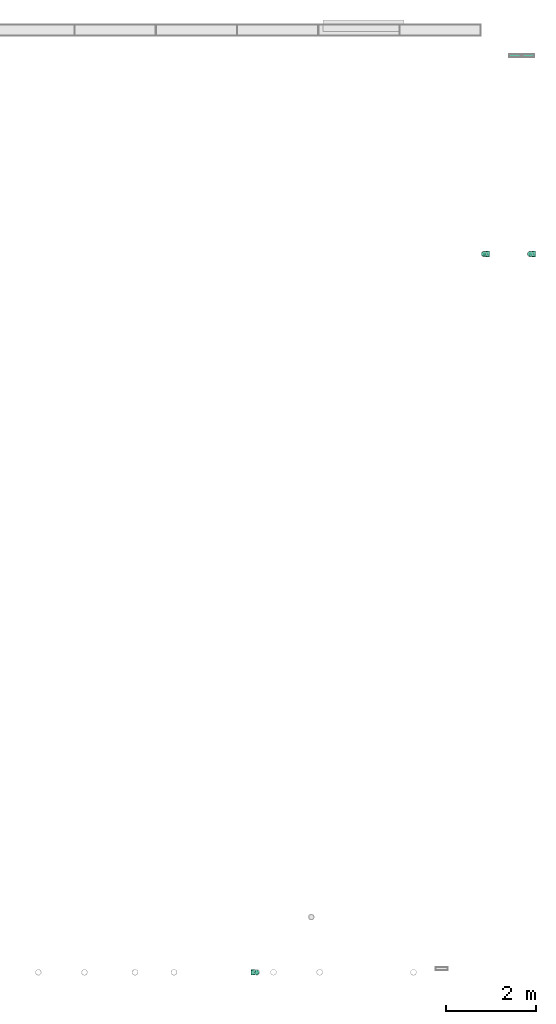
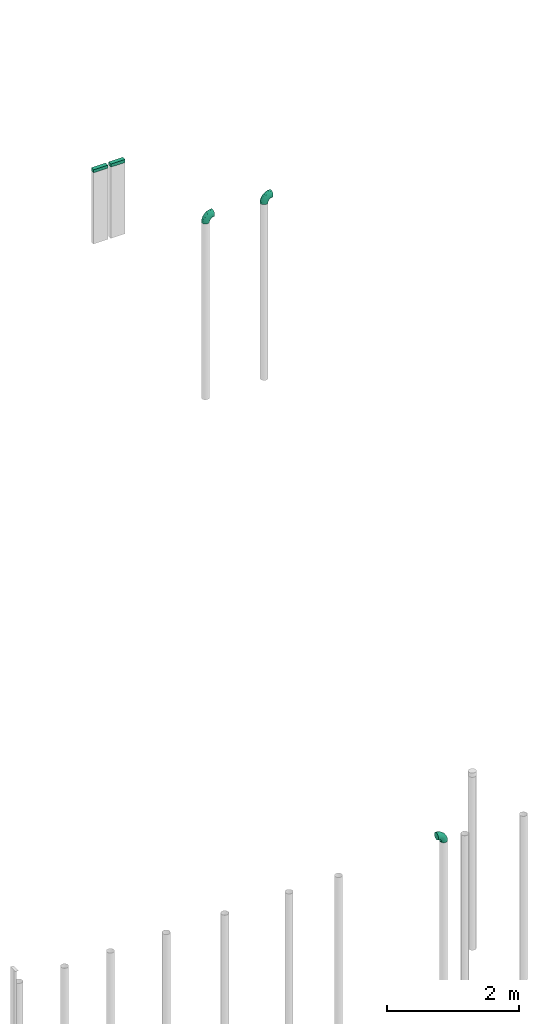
# One storey, part 4 of 7: 5 flow fittings.
"""IFC2X3 building model written with IfcOpenShell, lengths in millimetres."""

from ifc_helpers import new_model, entity, si_unit, converted_unit, derived_unit, direction, frame, origin_with_axes, place, context, subcontext, project, spatial, open_shell, surface_model, source, transform, mapped, type_object, element, save


model = new_model("IFC2X3")

# Units and contexts
model_context = context("Model", 3, precision=0.01, world=frame((0.0, 4.29681676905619e-09, 0.0)), true_north=direction((4.01073788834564e-13, 1.0)))
plan_context = context("Plan", 3, precision=0.01, world=frame((0.0, 4.29681676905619e-09, 0.0)), true_north=direction((4.01073788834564e-13, 1.0)))
body_context = subcontext(model_context, "Body", "Model", "MODEL_VIEW")
ifc_project = project(units=[converted_unit("PLANEANGLEUNIT", "DEGREE", entity("IfcPositiveLengthMeasure", 0.0174532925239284), si_unit("PLANEANGLEUNIT", "RADIAN"), dimensions=[0, 0, 0, 0, 0, 0, 0]), si_unit("AREAUNIT", "SQUARE_METRE"), si_unit("LENGTHUNIT", "METRE", prefix="MILLI"), si_unit("MASSUNIT", "GRAM", prefix="KILO"), si_unit("POWERUNIT", "WATT"), si_unit("PRESSUREUNIT", "PASCAL"), si_unit("FORCEUNIT", "NEWTON", prefix="KILO"), si_unit("ELECTRICVOLTAGEUNIT", "VOLT"), si_unit("ELECTRICCURRENTUNIT", "AMPERE"), si_unit("THERMODYNAMICTEMPERATUREUNIT", "DEGREE_CELSIUS"), si_unit("TIMEUNIT", "SECOND"), si_unit("VOLUMEUNIT", "CUBIC_METRE"), derived_unit("LINEARVELOCITYUNIT", [(si_unit("LENGTHUNIT", "METRE"), 1), (si_unit("TIMEUNIT", "SECOND"), -1)]), derived_unit("VOLUMETRICFLOWRATEUNIT", [(si_unit("VOLUMEUNIT", "CUBIC_METRE"), 1), (si_unit("TIMEUNIT", "SECOND"), -1)]), derived_unit("THERMALTRANSMITTANCEUNIT", [(si_unit("POWERUNIT", "WATT"), 1), (si_unit("THERMODYNAMICTEMPERATUREUNIT", "KELVIN"), -1), (si_unit("AREAUNIT", "SQUARE_METRE"), -1)]), derived_unit("SOUNDPRESSUREUNIT", [(si_unit("PRESSUREUNIT", "PASCAL"), 1)])], contexts=[model_context, plan_context])

# Site, building, storey
site_placement = place(None, frame((0.0, -4.29681676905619e-09, 0.0), z_axis=(0.0, 0.0, 1.0), x_axis=(1.0, 0.0, 0.0)))
site = spatial("IfcSite", under=ifc_project, at=site_placement, CompositionType="ELEMENT")
building_placement = place(site_placement, frame((0.0, 4.29681676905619e-09, 0.0), z_axis=(0.0, 0.0, 1.0), x_axis=(1.0, 0.0, 0.0)))
building = spatial("IfcBuilding", under=site, at=building_placement, Name="mc-building", CompositionType="ELEMENT")
storey_placement = place(building_placement, frame((0.0, 0.0, 207370.0), z_axis=(0.0, 0.0, 1.0), x_axis=(1.0, 0.0, 0.0)))
storey = spatial("IfcBuildingStorey", under=building, at=storey_placement, Name="Nivå E", CompositionType="ELEMENT", Elevation=207370.0)

# Flow fittings
duct_fitting_type_1 = type_object("IfcDuctFittingType", Name="magicirc_elbow_full_radius_001", PredefinedType="BEND")
shared_shape_1 = source(origin_with_axes(), body_context, "Body", "SurfaceModel", [
    surface_model("IfcShellBasedSurfaceModel", [(-125.0, 16.17619, -60.37037), (-125.0, 0.0, -62.5), (-125.0, 44.19417, -44.19417), (-125.0, 31.25, -54.12659), (-125.0, 60.37037, -16.17619), (-125.0, 54.12659, -31.25), (-125.0, -16.17619, -60.37037), (-125.0, -31.25, -54.12659), (-125.0, -44.19417, -44.19417), (-125.0, -54.12659, -31.25), (-125.0, -60.37037, -16.17619), (-125.0, -62.5, 0.0), (-125.0, 62.5, 0.0), (-125.0, -31.25, 54.12659), (-125.0, 60.37037, 16.17619), (-125.0, 54.12659, 31.25), (-125.0, 16.17619, 60.37037), (-125.0, 31.25, 54.12659), (-125.0, 44.19417, 44.19417), (-125.0, -54.12659, 31.25), (-125.0, -44.19417, 44.19417), (-125.0, -60.37037, 16.17619), (-125.0, -16.17619, 60.37037), (-125.0, 0.0, 62.5), (-44.19417, 125.0, -44.19417), (0.0, 125.0, -62.5), (-16.17619, 125.0, -60.37037), (-31.25, 125.0, -54.12659), (-54.12659, 125.0, -31.25), (-60.37037, 125.0, -16.17619), (16.17619, 125.0, -60.37037), (44.19417, 125.0, -44.19417), (31.25, 125.0, -54.12659), (60.37037, 125.0, -16.17619), (54.12659, 125.0, -31.25), (62.5, 125.0, 0.0), (44.19417, 125.0, 44.19417), (31.25, 125.0, 54.12659), (-62.5, 125.0, 0.0), (-60.37037, 125.0, 16.17619), (-54.12659, 125.0, 31.25), (-16.17619, 125.0, 60.37037), (-44.19417, 125.0, 44.19417), (-31.25, 125.0, 54.12659), (60.37037, 125.0, 16.17619), (54.12659, 125.0, 31.25), (0.0, 125.0, 62.5), (16.17619, 125.0, 60.37037), (-92.0149, -48.59662, 35.11543), (-82.31101, -36.10079, 46.59002), (-83.27732, -57.79898, 0.0), (21.5934, 8.09566, 0.0), (6.68953, -6.68953, 12.50062), (-8.09566, -21.5934, 0.0), (-85.18285, -54.95352, 19.72452), (-63.86862, 108.10791, 10.69753), (-72.65264, 88.16475, 13.64847), (-58.85933, 108.47697, 26.01876), (28.68805, 50.93011, 42.73586), (15.24994, 48.30376, 51.88115), (13.33611, 22.15566, 40.76355), (-28.58034, -33.18174, 16.61251), (-55.80927, -40.00167, 31.60254), (-55.92901, -46.21073, 18.75923), (-43.6468, -43.93166, 0.0), (-11.16429, 11.16428, 51.09905), (-91.91541, -23.64007, 56.2333), (-48.30376, -15.24994, 51.88115), (-62.2246, -0.56088, 60.57833), (-86.05221, 71.09173, 22.01563), (-76.29757, 73.71528, 30.99181), (-95.48, -8.27954, 61.43109), (-21.72166, 61.46244, 62.38786), (-46.29465, 46.29465, 60.98138), (-37.21568, 27.31198, 62.17805), (-96.3442, 24.51222, 59.0402), (-23.33012, 107.80836, 58.54242), (-8.56588, 93.49118, 62.34649), (-87.52028, 9.58041, 62.39347), (-90.8433, 62.14568, 32.36992), (-104.65631, 61.64741, 22.10298), (-108.67612, 63.76169, 10.43133), (-88.81041, 72.98575, 10.36437), (36.10079, 82.31101, 46.59002), (-22.15566, -13.33612, 40.76355), (-97.70214, 52.10141, 41.01675), (33.18174, 28.58034, 16.61251), (43.93166, 43.6468, 0.0), (-108.13323, 37.84893, 50.9265), (-16.31425, 41.86087, 61.36861), (-31.05498, 11.46575, 58.36241), (-6.38494, 33.76703, 57.43674), (23.64007, 91.91541, 56.2333), (8.27954, 95.48, 61.43109), (40.00167, 55.80927, 31.60254), (47.31258, 55.33607, 14.21495), (57.79898, 83.27732, 0.0), (54.95352, 85.18285, 19.72452), (48.59662, 92.0149, 35.11543), (-51.08394, 80.06201, 49.23756), (-51.34965, 100.68876, 40.68918), (-65.88145, 69.79931, 44.27158), (-67.25753, 101.08228, 0.0), (-66.7509, 56.0836, 51.93913), (-47.27423, 67.56375, 55.69769), (-80.80582, 80.80582, 0.0), (-101.08228, 67.25753, 0.0), (-27.0301, 84.68903, 59.52251), (-39.49549, 96.79785, 51.80473), (-4.68934, 4.68934, 43.22247), (2.91368, -2.91368, 27.95973), (-68.67967, 26.77168, 61.38152), (-61.32894, 15.31518, 62.47333), (-66.44476, 42.40788, 57.80884), (-86.06534, 42.42608, 52.63144), (-36.4073, 64.87811, 59.87196), (0.56088, 62.2246, 60.57833), (-50.92891, -28.66756, 42.755), (-64.50927, 88.5041, 30.85553), (-27.43118, -26.16339, 29.83954), (22.73426, 21.43212, 28.89237), (-90.73911, 40.97988, -52.27133), (-51.05944, -15.77315, -52.43613), (-54.27147, -0.77962, -59.44482), (-25.11169, -1.04586, -51.21226), (-98.94229, 7.90272, -62.29658), (-67.16143, 94.52638, -18.73917), (-96.1712, 24.53976, -59.04752), (-57.8841, 72.64103, -48.12601), (-44.50916, 76.42373, -54.27754), (-57.76281, 57.76281, -54.8772), (-107.28047, 64.03146, -11.08737), (-59.60363, -46.85882, -20.9596), (-91.17795, -55.95169, -20.37554), (-87.70528, 72.36167, -15.72738), (37.33987, 90.42119, -47.18844), (21.5694, 79.15007, -55.58604), (24.6394, 105.55614, -56.88213), (-98.81833, 51.80612, -40.89409), (-75.37655, 57.2746, -47.13743), (-29.56225, -32.61603, -19.86672), (2.63114, 29.35884, -52.12213), (-22.06401, 22.064, -59.01679), (-105.22465, -49.75349, -36.31269), (-39.22852, 98.11971, -51.7028), (-25.51302, 90.93127, -59.26694), (7.06321, 14.54725, -41.00964), (25.49531, 46.66577, -43.72165), (20.99941, 20.9078, -30.93535), (-90.42119, -37.33987, -47.18844), (-47.40462, -35.90659, -32.07933), (-105.55614, -24.6394, -56.88213), (0.77962, 54.27147, -59.44482), (12.91756, 53.35696, -54.59988), (7.88048, 92.08251, -61.35725), (-79.15007, -21.5694, -55.58604), (-92.08251, -7.88048, -61.35725), (-78.52964, -46.34869, -33.8522), (-68.20954, -28.53784, -49.07387), (46.34869, 78.52964, -33.8522), (46.85882, 59.60363, -20.9596), (35.90659, 47.40462, -32.07933), (-75.95077, 74.3101, -30.65772), (-100.92719, 60.72326, -27.00798), (2.91558, -2.91558, -27.95435), (6.69001, -6.69001, -12.49729), (32.61603, 29.56225, -19.86672), (-54.06785, 91.48679, -41.70621), (-58.74822, 101.55878, -30.19257), (-7.90272, 98.94229, -62.29658), (49.75349, 105.22465, -36.31269), (-14.77484, 68.85348, -62.48651), (-33.7955, 36.46996, -62.46452), (-36.98162, 59.24998, -60.63975), (55.95169, 91.17795, -20.37554), (-61.70769, 36.16979, -60.43635), (-23.35082, -23.18253, -30.24249), (-68.85348, 14.77484, -62.48651), (-16.60827, -10.64436, -39.25753), (-46.66577, -25.49531, -43.72165), (-69.70063, 70.78468, -40.55271)], [open_shell([[[0, 1, 2]], [[3, 0, 2]], [[4, 5, 2]], [[6, 2, 1]], [[4, 2, 6]], [[7, 8, 6]], [[8, 4, 6]], [[9, 10, 8]], [[11, 8, 10]], [[8, 11, 4]], [[11, 12, 4]], [[12, 13, 14]], [[15, 14, 16]], [[16, 17, 18]], [[15, 16, 18]], [[16, 14, 13]], [[19, 20, 21]], [[21, 20, 11]], [[22, 23, 13]], [[20, 13, 11]], [[13, 23, 16]], [[13, 12, 11]], [[24, 25, 26]], [[24, 26, 27]], [[24, 28, 29]], [[25, 24, 30]], [[30, 24, 29]], [[30, 31, 32]], [[30, 29, 31]], [[31, 33, 34]], [[33, 31, 35]], [[31, 36, 35]], [[31, 29, 37]], [[38, 39, 40]], [[38, 40, 41]], [[42, 43, 41]], [[42, 41, 40]], [[38, 41, 37]], [[44, 36, 45]], [[35, 36, 44]], [[37, 46, 47]], [[31, 37, 36]], [[41, 46, 37]], [[29, 38, 37]], [[20, 48, 49]], [[21, 11, 50]], [[51, 52, 53]], [[54, 19, 21]], [[50, 54, 21]], [[55, 56, 57]], [[19, 48, 20]], [[58, 59, 60]], [[61, 62, 63]], [[61, 63, 64]], [[20, 49, 13]], [[61, 64, 53]], [[65, 60, 59]], [[66, 67, 68]], [[56, 69, 70]], [[71, 23, 22]], [[72, 73, 74]], [[17, 16, 75]], [[66, 13, 49]], [[41, 76, 77]], [[23, 78, 16]], [[15, 79, 80]], [[81, 12, 14]], [[69, 82, 81]], [[83, 36, 37]], [[65, 67, 84]], [[18, 85, 15]], [[86, 51, 87]], [[18, 17, 88]], [[89, 90, 91]], [[83, 37, 92]], [[69, 81, 80]], [[93, 47, 46]], [[94, 86, 95]], [[96, 97, 95]], [[96, 44, 97]], [[98, 97, 45]], [[46, 41, 77]], [[63, 50, 64]], [[44, 45, 97]], [[83, 94, 98]], [[45, 36, 98]], [[99, 100, 101]], [[55, 102, 56]], [[39, 57, 40]], [[44, 96, 35]], [[48, 54, 62]], [[79, 70, 69]], [[99, 103, 104]], [[38, 102, 55]], [[23, 71, 78]], [[56, 105, 82]], [[18, 88, 85]], [[102, 105, 56]], [[92, 37, 47]], [[57, 100, 40]], [[82, 105, 106]], [[107, 108, 104]], [[109, 110, 60]], [[107, 72, 77]], [[13, 66, 22]], [[108, 107, 76]], [[76, 41, 43]], [[43, 42, 108]], [[83, 92, 59]], [[95, 86, 87]], [[111, 112, 74]], [[75, 16, 78]], [[113, 75, 111]], [[103, 85, 114]], [[80, 79, 69]], [[100, 42, 40]], [[115, 104, 73]], [[107, 115, 72]], [[93, 77, 116]], [[67, 66, 49]], [[71, 66, 68]], [[67, 117, 84]], [[67, 65, 90]], [[93, 92, 47]], [[116, 91, 59]], [[116, 59, 92]], [[109, 60, 65]], [[54, 48, 19]], [[49, 48, 62]], [[83, 98, 36]], [[97, 98, 94]], [[111, 75, 78]], [[88, 75, 114]], [[81, 82, 106]], [[56, 82, 69]], [[12, 81, 106]], [[81, 14, 80]], [[14, 15, 80]], [[79, 15, 85]], [[85, 101, 79]], [[70, 101, 118]], [[108, 99, 104]], [[113, 103, 114]], [[111, 74, 73]], [[116, 77, 72]], [[90, 74, 68]], [[72, 74, 89]], [[77, 93, 46]], [[92, 93, 116]], [[66, 71, 22]], [[78, 71, 68]], [[101, 100, 118]], [[108, 42, 100]], [[52, 61, 53]], [[119, 110, 84]], [[94, 58, 120]], [[86, 120, 52]], [[117, 67, 49]], [[61, 119, 62]], [[120, 60, 110]], [[83, 58, 94]], [[111, 78, 112]], [[113, 111, 73]], [[104, 113, 73]], [[75, 113, 114]], [[104, 103, 113]], [[85, 103, 101]], [[78, 68, 112]], [[68, 74, 112]], [[101, 70, 79]], [[56, 70, 118]], [[67, 90, 68]], [[91, 90, 65]], [[59, 91, 65]], [[89, 91, 116]], [[72, 89, 116]], [[90, 89, 74]], [[57, 56, 118]], [[38, 55, 39]], [[86, 52, 51]], [[61, 52, 110]], [[75, 88, 17]], [[85, 88, 114]], [[108, 76, 43]], [[77, 76, 107]], [[55, 57, 39]], [[100, 57, 118]], [[72, 115, 73]], [[107, 104, 115]], [[100, 99, 108]], [[103, 99, 101]], [[62, 54, 63]], [[63, 54, 50]], [[96, 95, 87]], [[94, 95, 97]], [[49, 62, 117]], [[119, 117, 62]], [[110, 119, 61]], [[117, 119, 84]], [[65, 84, 109]], [[110, 109, 84]], [[52, 120, 110]], [[94, 120, 86]], [[59, 58, 83]], [[120, 58, 60]], [[2, 121, 3]], [[122, 123, 124]], [[1, 0, 125]], [[126, 102, 38]], [[3, 127, 0]], [[128, 129, 130]], [[106, 131, 12]], [[132, 50, 133]], [[106, 134, 131]], [[135, 136, 137]], [[138, 139, 121]], [[64, 140, 53]], [[141, 124, 142]], [[121, 2, 138]], [[133, 9, 143]], [[144, 27, 145]], [[50, 11, 10]], [[146, 147, 148]], [[149, 8, 7]], [[140, 132, 150]], [[151, 149, 7]], [[141, 152, 153]], [[30, 154, 25]], [[133, 10, 9]], [[143, 9, 8]], [[155, 156, 123]], [[157, 149, 158]], [[7, 6, 151]], [[156, 6, 1]], [[159, 160, 161]], [[105, 134, 106]], [[64, 50, 132]], [[126, 162, 134]], [[138, 163, 162]], [[29, 126, 38]], [[140, 164, 165]], [[166, 87, 51]], [[167, 168, 28]], [[162, 126, 168]], [[32, 31, 135]], [[154, 30, 137]], [[26, 169, 145]], [[127, 3, 121]], [[169, 26, 25]], [[31, 34, 170]], [[27, 144, 24]], [[26, 145, 27]], [[30, 32, 137]], [[87, 166, 160]], [[165, 166, 51]], [[171, 172, 173]], [[142, 152, 141]], [[165, 51, 53]], [[156, 155, 151]], [[136, 135, 147]], [[34, 33, 174]], [[35, 96, 33]], [[175, 127, 121]], [[2, 5, 138]], [[174, 159, 170]], [[176, 140, 150]], [[171, 154, 152]], [[126, 105, 102]], [[28, 24, 167]], [[173, 145, 171]], [[131, 163, 4]], [[128, 144, 129]], [[139, 128, 130]], [[174, 160, 159]], [[170, 135, 31]], [[147, 135, 159]], [[152, 154, 136]], [[169, 154, 171]], [[153, 147, 141]], [[152, 142, 172]], [[33, 96, 174]], [[160, 96, 87]], [[155, 122, 158]], [[143, 149, 157]], [[125, 156, 1]], [[177, 172, 123]], [[177, 123, 156]], [[123, 142, 124]], [[133, 157, 132]], [[50, 10, 133]], [[126, 134, 105]], [[168, 29, 28]], [[163, 5, 4]], [[121, 139, 130]], [[175, 121, 130]], [[125, 127, 177]], [[145, 173, 129]], [[167, 24, 144]], [[147, 146, 141]], [[178, 124, 146]], [[124, 141, 146]], [[124, 179, 122]], [[162, 163, 134]], [[138, 5, 163]], [[127, 125, 0]], [[156, 125, 177]], [[154, 169, 25]], [[145, 169, 171]], [[147, 161, 148]], [[146, 164, 178]], [[176, 164, 140]], [[124, 178, 179]], [[171, 152, 172]], [[175, 130, 173]], [[123, 172, 142]], [[175, 172, 177]], [[172, 175, 173]], [[127, 175, 177]], [[162, 180, 138]], [[180, 167, 128]], [[160, 174, 96]], [[161, 160, 166]], [[161, 166, 148]], [[147, 159, 161]], [[166, 164, 148]], [[164, 146, 148]], [[150, 132, 157]], [[64, 132, 140]], [[157, 179, 150]], [[176, 179, 178]], [[180, 128, 139]], [[144, 128, 167]], [[145, 129, 144]], [[173, 130, 129]], [[138, 180, 139]], [[167, 180, 162]], [[179, 176, 150]], [[164, 176, 178]], [[140, 165, 53]], [[166, 165, 164]], [[163, 131, 134]], [[12, 131, 4]], [[135, 137, 32]], [[154, 137, 136]], [[174, 170, 34]], [[135, 170, 159]], [[156, 151, 6]], [[149, 151, 155]], [[149, 143, 8]], [[133, 143, 157]], [[162, 168, 167]], [[29, 168, 126]], [[152, 136, 153]], [[147, 153, 136]], [[158, 122, 179]], [[123, 122, 155]], [[157, 158, 179]], [[155, 158, 149]]])]),
])
for number, where, z_axis, x_axis, name in (
    (1, (535072.84174, 456813.04565, 5693.0), (0.0, 1.0, 0.0), (0.0, 0.0, 1.0), "magicirc_elbow_full_radius_001"),
    (2, (536094.84174, 456813.04565, 5693.0), (0.0, 1.0, 0.0), (0.0, 0.0, 1.0), "magicirc_elbow_full_radius_001"),
    (3, (530036.70917, 440892.96265, 5693.0), (0.0, -1.0, 0.0), (0.0, 0.0, 1.0), "magicirc_elbow_full_radius_001"),
):
    element("IfcFlowFitting", number, at=place(storey_placement, frame(where, z_axis=z_axis, x_axis=x_axis)), inside=storey, type_object=duct_fitting_type_1, Name=name, context=body_context, shape_type="MappedRepresentation", body=[
        mapped(shared_shape_1, transform((0.0, 0.0, 0.0), scale=1.0)),
    ])
duct_fitting_type_2 = type_object("IfcDuctFittingType", Name="magirect_outlet1_001 2", PredefinedType="CONNECTOR")
shared_shape_2 = source(origin_with_axes(), body_context, "Body", "SurfaceModel", [
    surface_model("IfcShellBasedSurfaceModel", [(-6.096, 125.0, -35.0), (-6.096, -125.0, -35.0), (-6.096, 125.0, 35.0), (-6.096, -125.0, 35.0), (50.0, -125.0, -35.0), (50.0, -125.0, 35.0), (50.0, 125.0, -35.0), (50.0, 125.0, 35.0)], [open_shell([[[0, 1, 2]], [[3, 2, 1]], [[4, 3, 1]], [[3, 4, 5]], [[6, 1, 0]], [[1, 6, 4]], [[6, 0, 2]], [[2, 7, 6]], [[7, 2, 3]], [[3, 5, 7]], [[6, 5, 4]], [[5, 6, 7]], [[7, 5, 4]], [[4, 6, 7]]])]),
])
for number, where, z_axis, x_axis, name in (
    (4, (536061.24375, 461204.96706, 3680.0), (0.0, -1.0, 0.0), (0.0, 0.0, -1.0), "magirect_outlet1_001 2"),
    (5, (535761.03199, 461204.96706, 3680.0), (0.0, -1.0, 0.0), (0.0, 0.0, -1.0), "magirect_outlet1_001 2"),
):
    element("IfcFlowFitting", number, at=place(storey_placement, frame(where, z_axis=z_axis, x_axis=x_axis)), inside=storey, type_object=duct_fitting_type_2, Name=name, context=body_context, shape_type="MappedRepresentation", body=[
        mapped(shared_shape_2, transform((0.0, 0.0, 0.0), scale=1.0)),
    ])

save(model, "model.ifc")
